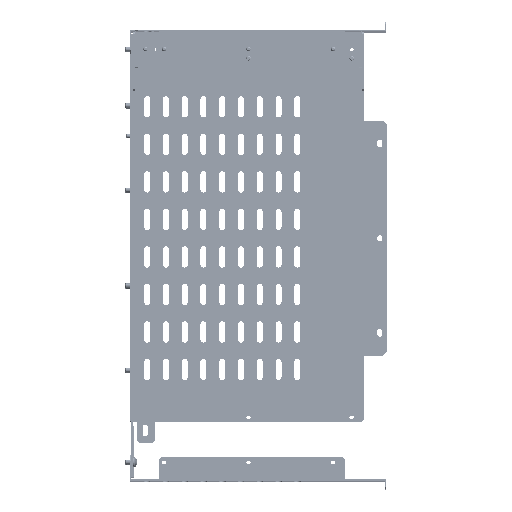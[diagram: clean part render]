
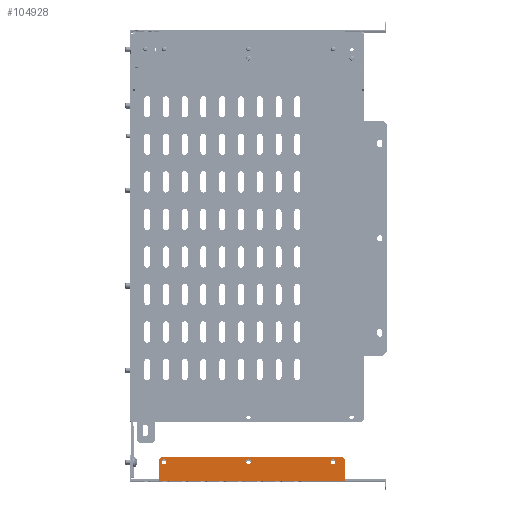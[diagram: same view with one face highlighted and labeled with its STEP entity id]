
A CAD part, top view. The second image highlights one B-rep face of the part: STEP entity #104928.
In plain terms, the highlighted planar face has unit normal (0, 0, 1).
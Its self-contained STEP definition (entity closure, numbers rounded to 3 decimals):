
#679 = LINE ( 'NONE', #51849, #128948 ) ;
#1226 = DIRECTION ( 'NONE',  ( 0., 0., -1. ) ) ;
#2087 = CARTESIAN_POINT ( 'NONE',  ( 128., -572.5, 453.25 ) ) ;
#4659 = CARTESIAN_POINT ( 'NONE',  ( -119.5, -544., 453.25 ) ) ;
#6351 = VERTEX_POINT ( 'NONE', #49323 ) ;
#6413 = LINE ( 'NONE', #38307, #43213 ) ;
#6909 = DIRECTION ( 'NONE',  ( 0., 1., 0. ) ) ;
#7080 = VECTOR ( 'NONE', #78913, 1000. ) ;
#7225 = LINE ( 'NONE', #17177, #7080 ) ;
#7380 = DIRECTION ( 'NONE',  ( 0., 0., -1. ) ) ;
#7429 = CIRCLE ( 'NONE', #47778, 3.25 ) ;
#7505 = ORIENTED_EDGE ( 'NONE', *, *, #128715, .T. ) ;
#7903 = EDGE_CURVE ( 'NONE', #46712, #62310, #99622, .T. ) ;
#8308 = EDGE_CURVE ( 'NONE', #62310, #46712, #108230, .T. ) ;
#8519 = AXIS2_PLACEMENT_3D ( 'NONE', #29253, #28605, #17949 ) ;
#8920 = LINE ( 'NONE', #56840, #75705 ) ;
#10363 = ORIENTED_EDGE ( 'NONE', *, *, #121517, .F. ) ;
#12397 = EDGE_CURVE ( 'NONE', #74209, #89799, #123925, .T. ) ;
#13702 = CARTESIAN_POINT ( 'NONE',  ( 112., -550., 453.25 ) ) ;
#14585 = DIRECTION ( 'NONE',  ( 0., -1., 0. ) ) ;
#14907 = DIRECTION ( 'NONE',  ( 0., 0., -1. ) ) ;
#17177 = CARTESIAN_POINT ( 'NONE',  ( -119.5, -547., 453.25 ) ) ;
#17696 = DIRECTION ( 'NONE',  ( 1., 0., 0. ) ) ;
#17949 = DIRECTION ( 'NONE',  ( 0., 1., 0. ) ) ;
#21635 = FACE_BOUND ( 'NONE', #78853, .T. ) ;
#22968 = FACE_BOUND ( 'NONE', #32125, .T. ) ;
#23727 = DIRECTION ( 'NONE',  ( -1., 0., 0. ) ) ;
#26948 = DIRECTION ( 'NONE',  ( -0.707, 0.707, 0. ) ) ;
#28000 = ORIENTED_EDGE ( 'NONE', *, *, #29231, .F. ) ;
#28460 = DIRECTION ( 'NONE',  ( 0., 1., 0. ) ) ;
#28539 = AXIS2_PLACEMENT_3D ( 'NONE', #92199, #1226, #122721 ) ;
#28605 = DIRECTION ( 'NONE',  ( 0., 0., -1. ) ) ;
#29231 = EDGE_CURVE ( 'NONE', #44377, #6351, #57113, .T. ) ;
#29253 = CARTESIAN_POINT ( 'NONE',  ( -0.5, -550., 453.25 ) ) ;
#29827 = CIRCLE ( 'NONE', #38288, 3.25 ) ;
#32125 = EDGE_LOOP ( 'NONE', ( #126384, #40002 ) ) ;
#32963 = EDGE_CURVE ( 'NONE', #107477, #130219, #43223, .T. ) ;
#33941 = AXIS2_PLACEMENT_3D ( 'NONE', #120228, #7380, #39266 ) ;
#34360 = CARTESIAN_POINT ( 'NONE',  ( -3., -575., 453.25 ) ) ;
#37489 = CARTESIAN_POINT ( 'NONE',  ( -113., -550., 453.25 ) ) ;
#38174 = EDGE_CURVE ( 'NONE', #126850, #90955, #80518, .T. ) ;
#38288 = AXIS2_PLACEMENT_3D ( 'NONE', #13702, #115312, #84095 ) ;
#38307 = CARTESIAN_POINT ( 'NONE',  ( 128., -544., 453.25 ) ) ;
#38326 = VECTOR ( 'NONE', #103340, 1000. ) ;
#39266 = DIRECTION ( 'NONE',  ( 0., 1., 0. ) ) ;
#40002 = ORIENTED_EDGE ( 'NONE', *, *, #8308, .T. ) ;
#41109 = EDGE_CURVE ( 'NONE', #96695, #6351, #7225, .T. ) ;
#41122 = ORIENTED_EDGE ( 'NONE', *, *, #12397, .T. ) ;
#42297 = CARTESIAN_POINT ( 'NONE',  ( 128., -573.5, 453.25 ) ) ;
#43213 = VECTOR ( 'NONE', #17696, 1000. ) ;
#43223 = LINE ( 'NONE', #105570, #112745 ) ;
#43713 = VERTEX_POINT ( 'NONE', #57615 ) ;
#44296 = LINE ( 'NONE', #34360, #98360 ) ;
#44377 = VERTEX_POINT ( 'NONE', #123720 ) ;
#46566 = CARTESIAN_POINT ( 'NONE',  ( -116.5, -544., 453.25 ) ) ;
#46656 = EDGE_CURVE ( 'NONE', #96695, #74188, #6413, .T. ) ;
#46712 = VERTEX_POINT ( 'NONE', #76173 ) ;
#47778 = AXIS2_PLACEMENT_3D ( 'NONE', #37489, #14907, #6909 ) ;
#48570 = CARTESIAN_POINT ( 'NONE',  ( -113., -546.75, 453.25 ) ) ;
#48918 = ORIENTED_EDGE ( 'NONE', *, *, #46656, .F. ) ;
#49323 = CARTESIAN_POINT ( 'NONE',  ( -119.5, -547., 453.25 ) ) ;
#49615 = ORIENTED_EDGE ( 'NONE', *, *, #38174, .T. ) ;
#51849 = CARTESIAN_POINT ( 'NONE',  ( -119.5, -572.5, 453.25 ) ) ;
#56840 = CARTESIAN_POINT ( 'NONE',  ( 125., -544., 453.25 ) ) ;
#57113 = LINE ( 'NONE', #4659, #93014 ) ;
#57305 = AXIS2_PLACEMENT_3D ( 'NONE', #81389, #74071, #121877 ) ;
#57597 = EDGE_CURVE ( 'NONE', #81279, #74188, #8920, .T. ) ;
#57615 = CARTESIAN_POINT ( 'NONE',  ( -119.5, -575., 453.25 ) ) ;
#59401 = ORIENTED_EDGE ( 'NONE', *, *, #103264, .T. ) ;
#62310 = VERTEX_POINT ( 'NONE', #104968 ) ;
#63475 = FACE_OUTER_BOUND ( 'NONE', #67412, .T. ) ;
#67412 = EDGE_LOOP ( 'NONE', ( #10363, #85053, #48918, #81752, #28000, #59401, #125132, #124015 ) ) ;
#71271 = ORIENTED_EDGE ( 'NONE', *, *, #87953, .T. ) ;
#74071 = DIRECTION ( 'NONE',  ( 0., 0., -1. ) ) ;
#74188 = VERTEX_POINT ( 'NONE', #95873 ) ;
#74209 = VERTEX_POINT ( 'NONE', #126424 ) ;
#74316 = CARTESIAN_POINT ( 'NONE',  ( 112., -553.25, 453.25 ) ) ;
#75705 = VECTOR ( 'NONE', #26948, 1000. ) ;
#76173 = CARTESIAN_POINT ( 'NONE',  ( -0.5, -546.75, 453.25 ) ) ;
#78853 = EDGE_LOOP ( 'NONE', ( #71271, #49615 ) ) ;
#78913 = DIRECTION ( 'NONE',  ( -0.707, -0.707, 0. ) ) ;
#80064 = EDGE_LOOP ( 'NONE', ( #7505, #41122 ) ) ;
#80518 = CIRCLE ( 'NONE', #33941, 3.25 ) ;
#81279 = VERTEX_POINT ( 'NONE', #104172 ) ;
#81389 = CARTESIAN_POINT ( 'NONE',  ( -3., -575., 453.25 ) ) ;
#81752 = ORIENTED_EDGE ( 'NONE', *, *, #41109, .T. ) ;
#84095 = DIRECTION ( 'NONE',  ( 0., 1., 0. ) ) ;
#85053 = ORIENTED_EDGE ( 'NONE', *, *, #57597, .T. ) ;
#87953 = EDGE_CURVE ( 'NONE', #90955, #126850, #29827, .T. ) ;
#89799 = VERTEX_POINT ( 'NONE', #48570 ) ;
#90955 = VERTEX_POINT ( 'NONE', #121537 ) ;
#92199 = CARTESIAN_POINT ( 'NONE',  ( -113., -550., 453.25 ) ) ;
#93014 = VECTOR ( 'NONE', #109988, 1000. ) ;
#93762 = CARTESIAN_POINT ( 'NONE',  ( 128., -575., 453.25 ) ) ;
#95873 = CARTESIAN_POINT ( 'NONE',  ( 125., -544., 453.25 ) ) ;
#96695 = VERTEX_POINT ( 'NONE', #46566 ) ;
#98360 = VECTOR ( 'NONE', #23727, 1000. ) ;
#99453 = DIRECTION ( 'NONE',  ( 0., 0., -1. ) ) ;
#99622 = CIRCLE ( 'NONE', #8519, 3.25 ) ;
#101854 = AXIS2_PLACEMENT_3D ( 'NONE', #118713, #99453, #28460 ) ;
#103264 = EDGE_CURVE ( 'NONE', #44377, #43713, #679, .T. ) ;
#103340 = DIRECTION ( 'NONE',  ( 0., -1., 0. ) ) ;
#103941 = PLANE ( 'NONE',  #57305 ) ;
#104172 = CARTESIAN_POINT ( 'NONE',  ( 128., -547., 453.25 ) ) ;
#104928 = ADVANCED_FACE ( 'NONE', ( #124528, #22968, #21635, #63475 ), #103941, .F. ) ;
#104968 = CARTESIAN_POINT ( 'NONE',  ( -0.5, -553.25, 453.25 ) ) ;
#105570 = CARTESIAN_POINT ( 'NONE',  ( 128., -572.5, 453.25 ) ) ;
#107477 = VERTEX_POINT ( 'NONE', #2087 ) ;
#108230 = CIRCLE ( 'NONE', #101854, 3.25 ) ;
#109988 = DIRECTION ( 'NONE',  ( 0., 1., 0. ) ) ;
#112223 = DIRECTION ( 'NONE',  ( 0., -1., 0. ) ) ;
#112745 = VECTOR ( 'NONE', #14585, 1000. ) ;
#115312 = DIRECTION ( 'NONE',  ( 0., 0., -1. ) ) ;
#118713 = CARTESIAN_POINT ( 'NONE',  ( -0.5, -550., 453.25 ) ) ;
#120228 = CARTESIAN_POINT ( 'NONE',  ( 112., -550., 453.25 ) ) ;
#121517 = EDGE_CURVE ( 'NONE', #81279, #107477, #122578, .T. ) ;
#121537 = CARTESIAN_POINT ( 'NONE',  ( 112., -546.75, 453.25 ) ) ;
#121877 = DIRECTION ( 'NONE',  ( 0., 1., 0. ) ) ;
#122578 = LINE ( 'NONE', #42297, #38326 ) ;
#122721 = DIRECTION ( 'NONE',  ( 0., 1., 0. ) ) ;
#123720 = CARTESIAN_POINT ( 'NONE',  ( -119.5, -572.5, 453.25 ) ) ;
#123925 = CIRCLE ( 'NONE', #28539, 3.25 ) ;
#124015 = ORIENTED_EDGE ( 'NONE', *, *, #32963, .F. ) ;
#124528 = FACE_BOUND ( 'NONE', #80064, .T. ) ;
#125132 = ORIENTED_EDGE ( 'NONE', *, *, #127230, .F. ) ;
#126384 = ORIENTED_EDGE ( 'NONE', *, *, #7903, .T. ) ;
#126424 = CARTESIAN_POINT ( 'NONE',  ( -113., -553.25, 453.25 ) ) ;
#126850 = VERTEX_POINT ( 'NONE', #74316 ) ;
#127230 = EDGE_CURVE ( 'NONE', #130219, #43713, #44296, .T. ) ;
#128715 = EDGE_CURVE ( 'NONE', #89799, #74209, #7429, .T. ) ;
#128948 = VECTOR ( 'NONE', #112223, 1000. ) ;
#130219 = VERTEX_POINT ( 'NONE', #93762 ) ;
